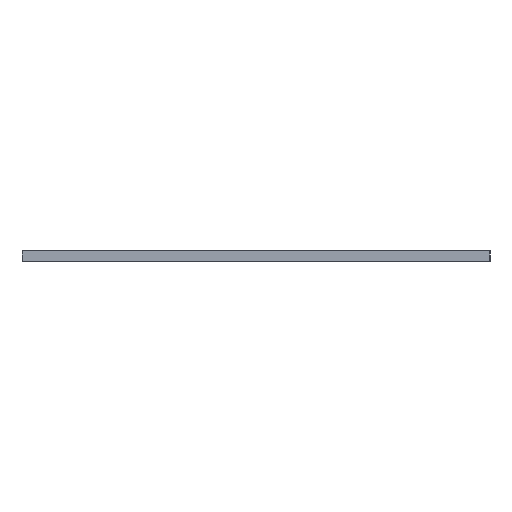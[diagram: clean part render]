
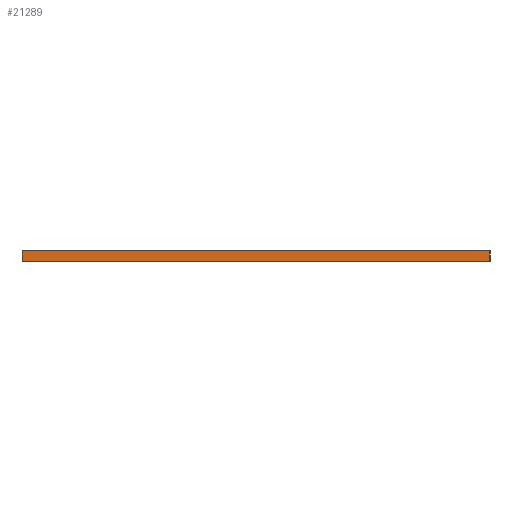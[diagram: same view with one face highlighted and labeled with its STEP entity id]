
A CAD part, left-side view. The second image highlights one B-rep face of the part: STEP entity #21289.
In plain terms, the highlighted planar face has unit normal (-1, 0, 0).
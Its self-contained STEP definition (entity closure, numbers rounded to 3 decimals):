
#3441=FACE_OUTER_BOUND('',#4976,.T.);
#4976=EDGE_LOOP('',(#18372,#18373,#18374,#18375));
#6304=LINE('',#36077,#7867);
#6537=LINE('',#37659,#8100);
#6538=LINE('',#37660,#8101);
#6539=LINE('',#37661,#8102);
#7867=VECTOR('',#24680,10.);
#8100=VECTOR('',#26711,10.);
#8101=VECTOR('',#26712,10.);
#8102=VECTOR('',#26713,10.);
#9522=VERTEX_POINT('',#36070);
#9525=VERTEX_POINT('',#36075);
#9974=VERTEX_POINT('',#37657);
#9975=VERTEX_POINT('',#37658);
#12102=EDGE_CURVE('',#9525,#9522,#6304,.T.);
#12775=EDGE_CURVE('',#9974,#9975,#6537,.T.);
#12776=EDGE_CURVE('',#9975,#9522,#6538,.T.);
#12777=EDGE_CURVE('',#9974,#9525,#6539,.T.);
#18372=ORIENTED_EDGE('',*,*,#12775,.T.);
#18373=ORIENTED_EDGE('',*,*,#12776,.T.);
#18374=ORIENTED_EDGE('',*,*,#12102,.F.);
#18375=ORIENTED_EDGE('',*,*,#12777,.F.);
#19002=PLANE('',#22584);
#21289=ADVANCED_FACE('',(#3441),#19002,.T.);
#22584=AXIS2_PLACEMENT_3D('',#37656,#26709,#26710);
#24680=DIRECTION('',(0.,-1.,0.));
#26709=DIRECTION('center_axis',(-1.,0.,0.));
#26710=DIRECTION('ref_axis',(0.,-1.,0.));
#26711=DIRECTION('',(0.,-1.,0.));
#26712=DIRECTION('',(0.,0.,1.));
#26713=DIRECTION('',(0.,0.,1.));
#36070=CARTESIAN_POINT('',(-170.,-88.,4.));
#36075=CARTESIAN_POINT('',(-170.,88.,4.));
#36077=CARTESIAN_POINT('',(-170.,88.,4.));
#37656=CARTESIAN_POINT('Origin',(-170.,88.,0.));
#37657=CARTESIAN_POINT('',(-170.,88.,0.));
#37658=CARTESIAN_POINT('',(-170.,-88.,0.));
#37659=CARTESIAN_POINT('',(-170.,88.,0.));
#37660=CARTESIAN_POINT('',(-170.,-88.,0.));
#37661=CARTESIAN_POINT('',(-170.,88.,0.));
